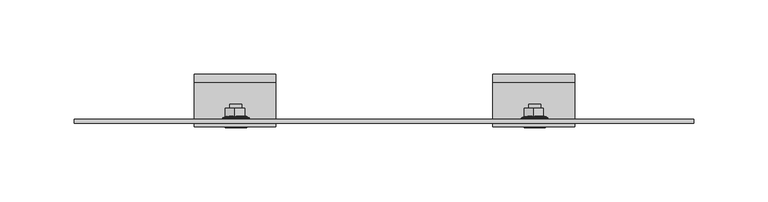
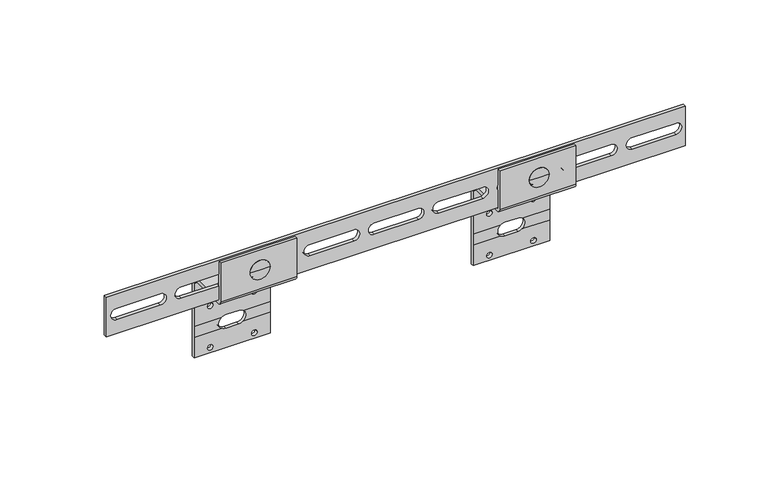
"""IFC4 building model written with IfcOpenShell, lengths in millimetres: proxy geometry, REHAU_RAUTITAN_Bracket D : REHAU_RAUTITAN_Bracket D."""

from ifc_helpers import new_model, si_unit, point, frame, frame_2d, origin, place, context, project, spatial, polyline, circle_curve, ellipse_curve, trimmed, segment, composite_curve, outline, extrude, source, transform, mapped, element, save
from ifc_brep_helpers import plane_surface, cylinder_surface, revolved_surface, advanced_brep


def mechanical_equipment_87cdfacb(model_context):
    return source(origin(), model_context, "Body", "SolidModel", [
        extrude(outline(polyline([(15.0, 209.0), (15.0, -209.0), (-15.0, -209.0), (-15.0, 209.0), (15.0, 209.0)]), holes=[composite_curve([segment(trimmed(circle_curve(frame_2d((0.0, -170.0)), 4.25), [point((4.25, -170.0))], [point((-4.25, -170.0))], True, "CARTESIAN"), True, "CONTINUOUS"), segment(polyline([(-4.25, -170.0), (-4.25, -201.5)]), True, "CONTINUOUS"), segment(trimmed(circle_curve(frame_2d((0.0, -201.5)), 4.25), [point((-4.25, -201.5))], [point((4.25, -201.5))], True, "CARTESIAN"), True, "CONTINUOUS"), segment(polyline([(4.25, -201.5), (4.25, -170.0)]), True, "CONTINUOUS")], self_intersect=False), composite_curve([segment(polyline([(-4.25, -128.0), (-4.25, -155.0)]), True, "CONTINUOUS"), segment(trimmed(circle_curve(frame_2d((0.0, -155.0)), 4.25), [point((-4.25, -155.0))], [point((4.25, -155.0))], True, "CARTESIAN"), True, "CONTINUOUS"), segment(polyline([(4.25, -155.0), (4.25, -128.0), (4.25, -123.5)]), True, "CONTINUOUS"), segment(trimmed(circle_curve(frame_2d((0.0, -123.5)), 4.25), [point((4.25, -123.5))], [point((-4.25, -123.5))], True, "CARTESIAN"), True, "CONTINUOUS"), segment(polyline([(-4.25, -123.5), (-4.25, -128.0)]), True, "CONTINUOUS")], self_intersect=False), composite_curve([segment(polyline([(-4.25, -77.0), (-4.25, -108.5)]), True, "CONTINUOUS"), segment(trimmed(circle_curve(frame_2d((0.0, -108.5)), 4.25), [point((-4.25, -108.5))], [point((4.25, -108.5))], True, "CARTESIAN"), True, "CONTINUOUS"), segment(polyline([(4.25, -108.5), (4.25, -77.0)]), True, "CONTINUOUS"), segment(trimmed(circle_curve(frame_2d((0.0, -77.0)), 4.25), [point((4.25, -77.0))], [point((1.4361407, -73.0))], True, "CARTESIAN"), True, "CONTINUOUS"), segment(trimmed(circle_curve(frame_2d((0.0, -77.0)), 4.25), [point((1.4361407, -73.0))], [point((-1.4361407, -73.0))], True, "CARTESIAN"), True, "CONTINUOUS"), segment(trimmed(circle_curve(frame_2d((0.0, -77.0)), 4.25), [point((-1.4361407, -73.0))], [point((-4.25, -77.0))], True, "CARTESIAN"), True, "CONTINUOUS")], self_intersect=False), composite_curve([segment(polyline([(-4.25, -30.5), (-4.25, -62.0)]), True, "CONTINUOUS"), segment(trimmed(circle_curve(frame_2d((0.0, -62.0)), 4.25), [point((-4.25, -62.0))], [point((4.25, -62.0))], True, "CARTESIAN"), True, "CONTINUOUS"), segment(polyline([(4.25, -62.0), (4.25, -30.5)]), True, "CONTINUOUS"), segment(trimmed(circle_curve(frame_2d((0.0, -30.5)), 4.25), [point((4.25, -30.5))], [point((-4.25, -30.5))], True, "CARTESIAN"), True, "CONTINUOUS")], self_intersect=False), composite_curve([segment(polyline([(-4.25, 16.0), (-4.25, -15.5)]), True, "CONTINUOUS"), segment(trimmed(circle_curve(frame_2d((0.0, -15.5)), 4.25), [point((-4.25, -15.5))], [point((4.25, -15.5))], True, "CARTESIAN"), True, "CONTINUOUS"), segment(polyline([(4.25, -15.5), (4.25, 16.0)]), True, "CONTINUOUS"), segment(trimmed(circle_curve(frame_2d((0.0, 16.0)), 4.25), [point((4.25, 16.0))], [point((-4.25, 16.0))], True, "CARTESIAN"), True, "CONTINUOUS")], self_intersect=False), composite_curve([segment(polyline([(-4.25, 62.5), (-4.25, 31.0)]), True, "CONTINUOUS"), segment(trimmed(circle_curve(frame_2d((0.0, 31.0)), 4.25), [point((-4.25, 31.0))], [point((4.25, 31.0))], True, "CARTESIAN"), True, "CONTINUOUS"), segment(polyline([(4.25, 31.0), (4.25, 62.5)]), True, "CONTINUOUS"), segment(trimmed(circle_curve(frame_2d((0.0, 62.5)), 4.25), [point((4.25, 62.5))], [point((-4.25, 62.5))], True, "CARTESIAN"), True, "CONTINUOUS")], self_intersect=False), composite_curve([segment(trimmed(circle_curve(frame_2d((0.0, 77.5)), 4.25), [point((-4.25, 77.5))], [point((-1.4361407, 73.5))], True, "CARTESIAN"), True, "CONTINUOUS"), segment(trimmed(circle_curve(frame_2d((0.0, 77.5)), 4.25), [point((-1.4361407, 73.5))], [point((1.4361407, 73.5))], True, "CARTESIAN"), True, "CONTINUOUS"), segment(trimmed(circle_curve(frame_2d((0.0, 77.5)), 4.25), [point((1.4361407, 73.5))], [point((4.25, 77.5))], True, "CARTESIAN"), True, "CONTINUOUS"), segment(polyline([(4.25, 77.5), (4.25, 109.0)]), True, "CONTINUOUS"), segment(trimmed(circle_curve(frame_2d((0.0, 109.0)), 4.25), [point((4.25, 109.0))], [point((-4.25, 109.0))], True, "CARTESIAN"), True, "CONTINUOUS"), segment(polyline([(-4.25, 109.0), (-4.25, 77.5)]), True, "CONTINUOUS")], self_intersect=False), composite_curve([segment(trimmed(circle_curve(frame_2d((0.0, 155.5)), 4.25), [point((4.25, 155.5))], [point((-4.25, 155.5))], True, "CARTESIAN"), True, "CONTINUOUS"), segment(polyline([(-4.25, 155.5), (-4.25, 128.5), (-4.25, 124.0)]), True, "CONTINUOUS"), segment(trimmed(circle_curve(frame_2d((0.0, 124.0)), 4.25), [point((-4.25, 124.0))], [point((4.25, 124.0))], True, "CARTESIAN"), True, "CONTINUOUS"), segment(polyline([(4.25, 124.0), (4.25, 128.5), (4.25, 155.5)]), True, "CONTINUOUS")], self_intersect=False), composite_curve([segment(polyline([(-4.25, 202.0), (-4.25, 170.5)]), True, "CONTINUOUS"), segment(trimmed(circle_curve(frame_2d((0.0, 170.5)), 4.25), [point((-4.25, 170.5))], [point((4.25, 170.5))], True, "CARTESIAN"), True, "CONTINUOUS"), segment(polyline([(4.25, 170.5), (4.25, 202.0)]), True, "CONTINUOUS"), segment(trimmed(circle_curve(frame_2d((0.0, 202.0)), 4.25), [point((4.25, 202.0))], [point((-4.25, 202.0))], True, "CARTESIAN"), True, "CONTINUOUS")], self_intersect=False)]), frame((0.0, -16.5, 0.0), z_axis=(0.0, 1.0, 0.0), x_axis=(0.0, 0.0, 1.0)), (0.0, 0.0, 1.0), 2.5),
        advanced_brep(
        [(128.5, -19.0, 14.5), (128.5, -19.0, -15.0), (128.5, -16.0, -18.0), (128.5, 11.0, -18.0), (128.5, 14.0, -21.0), (128.5, 14.0, -53.8585757), (128.5, 14.0, -62.1652337), (128.5, 14.0, -78.0), (128.5, 16.5, -78.0), (128.5, 16.5, -21.0), (128.5, 11.0, -15.5), (128.5, -16.0, -15.5), (128.5, -16.5, -15.0), (128.5, -16.5, 14.5), (73.5, -19.0, 14.5), (73.5, -16.5, 14.5), (73.5, -16.5, -15.0), (73.5, -16.0, -15.5), (73.5, 11.0, -15.5), (73.5, 16.5, -21.0), (73.5, 16.5, -78.0), (73.5, 14.0, -78.0), (73.5, 14.0, -62.1652337), (73.5, 14.0, -53.8585757), (73.5, 14.0, -21.0), (73.5, 11.0, -18.0), (73.5, -16.0, -18.0), (73.5, -19.0, -15.0), (93.0233756, 14.0, -53.8585757), (96.25, 14.0, -52.75), (105.75, 14.0, -52.75), (108.9766244, 14.0, -53.8585757), (87.0900974, 14.0, -42.0900974), (83.0900974, 14.0, -42.0900974), (118.9099026, 14.0, -42.0900974), (114.9099026, 14.0, -42.0900974), (108.9458298, 14.0, -62.1652337), (93.0541702, 14.0, -62.1652337), (105.75, 14.0, -63.25), (96.25, 14.0, -63.25), (87.0900974, 14.0, -73.9099026), (83.0900974, 14.0, -73.9099026), (118.9099026, 14.0, -73.9099026), (114.9099026, 14.0, -73.9099026), (83.0900974, 16.5, -42.0900974), (87.0900974, 16.5, -42.0900974), (114.9099026, 16.5, -42.0900974), (118.9099026, 16.5, -42.0900974), (83.0900974, 16.5, -73.9099026), (87.0900974, 16.5, -73.9099026), (114.9099026, 16.5, -73.9099026), (118.9099026, 16.5, -73.9099026), (105.75, 16.5, -63.25), (105.75, 16.5, -52.75), (96.25, 16.5, -52.75), (96.25, 16.5, -63.25)],
        [
            (0, 1),
            (1, 2, circle_curve(frame((128.5, -16.0, -15.0), z_axis=(1.0, 0.0, 0.0), x_axis=(0.0, 1.0, 0.0)), 3.0)),
            (2, 3),
            (3, 4, circle_curve(frame((128.5, 11.0, -21.0), z_axis=(-1.0, 0.0, 0.0), x_axis=(0.0, 1.0, 0.0)), 3.0)),
            (4, 5),
            (5, 6),
            (6, 7),
            (7, 8),
            (8, 9),
            (9, 10, circle_curve(frame((128.5, 11.0, -21.0), z_axis=(1.0, 0.0, 0.0), x_axis=(0.0, 1.0, 0.0)), 5.5)),
            (10, 11),
            (11, 12, circle_curve(frame((128.5, -16.0, -15.0), z_axis=(-1.0, 0.0, 0.0), x_axis=(0.0, 1.0, 0.0)), 0.5)),
            (12, 13),
            (13, 0),
            (14, 15),
            (15, 16),
            (16, 17, circle_curve(frame((73.5, -16.0, -15.0), z_axis=(1.0, 0.0, 0.0), x_axis=(0.0, 1.0, 0.0)), 0.5)),
            (17, 18),
            (18, 19, circle_curve(frame((73.5, 11.0, -21.0), z_axis=(-1.0, 0.0, 0.0), x_axis=(0.0, 1.0, 0.0)), 5.5)),
            (19, 20),
            (20, 21),
            (21, 22),
            (22, 23),
            (23, 24),
            (24, 25, circle_curve(frame((73.5, 11.0, -21.0), z_axis=(1.0, 0.0, 0.0), x_axis=(0.0, 1.0, 0.0)), 3.0)),
            (25, 26),
            (26, 27, circle_curve(frame((73.5, -16.0, -15.0), z_axis=(-1.0, 0.0, 0.0), x_axis=(0.0, 1.0, 0.0)), 3.0)),
            (27, 14),
            (0, 14),
            (27, 1),
            (26, 2),
            (25, 3),
            (24, 4),
            (23, 28),
            (28, 29, circle_curve(frame((96.25, 14.0, -58.0), z_axis=(0.0, 1.0, 0.0), x_axis=(1.0, 0.0, 0.0)), 5.25)),
            (29, 30),
            (30, 31, circle_curve(frame((105.75, 14.0, -58.0), z_axis=(0.0, 1.0, 0.0), x_axis=(1.0, 0.0, 0.0)), 5.25)),
            (31, 5),
            (32, 33, circle_curve(frame((85.0900974, 14.0, -42.0900974), z_axis=(0.0, 1.0, 0.0), x_axis=(1.0, 0.0, 0.0)), 2.0)),
            (33, 32, circle_curve(frame((85.0900974, 14.0, -42.0900974), z_axis=(0.0, 1.0, 0.0), x_axis=(1.0, 0.0, 0.0)), 2.0)),
            (34, 35, circle_curve(frame((116.9099026, 14.0, -42.0900974), z_axis=(0.0, 1.0, 0.0), x_axis=(1.0, 0.0, 0.0)), 2.0)),
            (35, 34, circle_curve(frame((116.9099026, 14.0, -42.0900974), z_axis=(0.0, 1.0, 0.0), x_axis=(1.0, 0.0, 0.0)), 2.0)),
            (31, 36, circle_curve(frame((105.75, 14.0, -58.0), z_axis=(0.0, 1.0, 0.0), x_axis=(1.0, 0.0, 0.0)), 5.25)),
            (36, 6),
            (22, 37),
            (37, 28, circle_curve(frame((96.25, 14.0, -58.0), z_axis=(0.0, 1.0, 0.0), x_axis=(1.0, 0.0, 0.0)), 5.25)),
            (36, 38, circle_curve(frame((105.75, 14.0, -58.0), z_axis=(0.0, 1.0, 0.0), x_axis=(1.0, 0.0, 0.0)), 5.25)),
            (38, 39),
            (39, 37, circle_curve(frame((96.25, 14.0, -58.0), z_axis=(0.0, 1.0, 0.0), x_axis=(1.0, 0.0, 0.0)), 5.25)),
            (21, 7),
            (40, 41, circle_curve(frame((85.0900974, 14.0, -73.9099026), z_axis=(0.0, 1.0, 0.0), x_axis=(1.0, 0.0, 0.0)), 2.0)),
            (41, 40, circle_curve(frame((85.0900974, 14.0, -73.9099026), z_axis=(0.0, 1.0, 0.0), x_axis=(1.0, 0.0, 0.0)), 2.0)),
            (42, 43, circle_curve(frame((116.9099026, 14.0, -73.9099026), z_axis=(0.0, 1.0, 0.0), x_axis=(1.0, 0.0, 0.0)), 2.0)),
            (43, 42, circle_curve(frame((116.9099026, 14.0, -73.9099026), z_axis=(0.0, 1.0, 0.0), x_axis=(1.0, 0.0, 0.0)), 2.0)),
            (20, 8),
            (19, 9),
            (44, 45, circle_curve(frame((85.0900974, 16.5, -42.0900974), z_axis=(0.0, -1.0, 0.0), x_axis=(1.0, 0.0, 0.0)), 2.0)),
            (45, 44, circle_curve(frame((85.0900974, 16.5, -42.0900974), z_axis=(0.0, -1.0, 0.0), x_axis=(1.0, 0.0, 0.0)), 2.0)),
            (46, 47, circle_curve(frame((116.9099026, 16.5, -42.0900974), z_axis=(0.0, -1.0, 0.0), x_axis=(1.0, 0.0, 0.0)), 2.0)),
            (47, 46, circle_curve(frame((116.9099026, 16.5, -42.0900974), z_axis=(0.0, -1.0, 0.0), x_axis=(1.0, 0.0, 0.0)), 2.0)),
            (48, 49, circle_curve(frame((85.0900974, 16.5, -73.9099026), z_axis=(0.0, -1.0, 0.0), x_axis=(1.0, 0.0, 0.0)), 2.0)),
            (49, 48, circle_curve(frame((85.0900974, 16.5, -73.9099026), z_axis=(0.0, -1.0, 0.0), x_axis=(1.0, 0.0, 0.0)), 2.0)),
            (50, 51, circle_curve(frame((116.9099026, 16.5, -73.9099026), z_axis=(0.0, -1.0, 0.0), x_axis=(1.0, 0.0, 0.0)), 2.0)),
            (51, 50, circle_curve(frame((116.9099026, 16.5, -73.9099026), z_axis=(0.0, -1.0, 0.0), x_axis=(1.0, 0.0, 0.0)), 2.0)),
            (52, 53, circle_curve(frame((105.75, 16.5, -58.0), z_axis=(0.0, -1.0, 0.0), x_axis=(1.0, 0.0, 0.0)), 5.25)),
            (53, 54),
            (54, 55, circle_curve(frame((96.25, 16.5, -58.0), z_axis=(0.0, -1.0, 0.0), x_axis=(1.0, 0.0, 0.0)), 5.25)),
            (55, 52),
            (18, 10),
            (17, 11),
            (16, 12),
            (15, 13),
            (44, 33),
            (32, 45),
            (46, 35),
            (34, 47),
            (48, 41),
            (40, 49),
            (50, 43),
            (42, 51),
            (52, 38),
            (30, 53),
            (29, 54),
            (39, 55),
        ],
        [
            plane_surface(frame((128.5, -19.0, 14.5), z_axis=(1.0, 0.0, 0.0), x_axis=(0.0, 0.0, -1.0))),
            plane_surface(frame((73.5, -19.0, 14.5), z_axis=(-1.0, 0.0, 0.0), x_axis=(0.0, 0.0, 1.0))),
            plane_surface(frame((128.5, -19.0, 14.5), z_axis=(0.0, -1.0, 0.0), x_axis=(-1.0, 0.0, 0.0))),
            cylinder_surface(frame((73.5, -16.0, -15.0), z_axis=(1.0, 0.0, 0.0), x_axis=(0.0, 1.0, 0.0)), 3.0),
            plane_surface(frame((128.5, -16.0, -18.0), z_axis=(0.0, 0.0, -1.0), x_axis=(-1.0, 0.0, 0.0))),
            revolved_surface(polyline([(73.5, 14.0, -21.0), (128.5, 14.0, -21.0)]), (73.5, 11.0, -21.0), (-1.0, 0.0, 0.0)),
            plane_surface(frame((128.5, 14.0, -21.0), z_axis=(0.0, -1.0, 0.0), x_axis=(-1.0, 0.0, 0.0))),
            plane_surface(frame((128.5, 14.0, -53.8585757), z_axis=(0.0, -1.0, 0.0), x_axis=(-1.0, 0.0, 0.0))),
            plane_surface(frame((128.5, 14.0, -62.1652337), z_axis=(0.0, -1.0, 0.0), x_axis=(-1.0, 0.0, 0.0))),
            plane_surface(frame((128.5, 14.0, -78.0), z_axis=(0.0, 0.0, -1.0), x_axis=(-1.0, 0.0, 0.0))),
            plane_surface(frame((128.5, 16.5, -78.0), z_axis=(0.0, 1.0, 0.0), x_axis=(-1.0, 0.0, 0.0))),
            cylinder_surface(frame((73.5, 11.0, -21.0), z_axis=(1.0, 0.0, 0.0), x_axis=(0.0, 1.0, 0.0)), 5.5),
            plane_surface(frame((128.5, 11.0, -15.5), z_axis=(0.0, 0.0, 1.0), x_axis=(-1.0, 0.0, 0.0))),
            revolved_surface(polyline([(73.5, -15.5, -15.0), (128.5, -15.5, -15.0)]), (73.5, -16.0, -15.0), (-1.0, 0.0, 0.0)),
            plane_surface(frame((128.5, -16.5, -15.0), z_axis=(0.0, 1.0, 0.0), x_axis=(-1.0, 0.0, 0.0))),
            plane_surface(frame((128.5, -16.5, 14.5), z_axis=(0.0, 0.0, 1.0), x_axis=(-1.0, 0.0, 0.0))),
            revolved_surface(polyline([(87.0900974, 14.0, -42.0900974), (87.0900974, 16.5, -42.0900974)]), (85.0900974, 0.0, -42.0900974), (0.0, -1.0, 0.0)),
            revolved_surface(polyline([(118.9099026, 14.0, -42.0900974), (118.9099026, 16.5, -42.0900974)]), (116.9099026, 0.0, -42.0900974), (0.0, -1.0, 0.0)),
            revolved_surface(polyline([(87.0900974, 14.0, -73.9099026), (87.0900974, 16.5, -73.9099026)]), (85.0900974, 0.0, -73.9099026), (0.0, -1.0, 0.0)),
            revolved_surface(polyline([(118.9099026, 14.0, -73.9099026), (118.9099026, 16.5, -73.9099026)]), (116.9099026, 0.0, -73.9099026), (0.0, -1.0, 0.0)),
            revolved_surface(polyline([(111.0, 14.0, -58.0), (111.0, 16.5, -58.0)]), (105.75, 0.0, -58.0), (0.0, -1.0, 0.0)),
            plane_surface(frame((105.75, -19.7, -52.75), z_axis=(0.0, 0.0, -1.0), x_axis=(0.0, 1.0, 0.0))),
            revolved_surface(polyline([(101.5, 14.0, -58.0), (101.5, 16.5, -58.0)]), (96.25, 0.0, -58.0), (0.0, -1.0, 0.0)),
            plane_surface(frame((96.25, -19.7, -63.25), z_axis=(0.0, 0.0, 1.0), x_axis=(0.0, 1.0, 0.0))),
        ],
        [
            (0, [[1, 2, 3, 4, 5, 6, 7, 8, 9, 10, 11, 12, 13, 14]]),
            (1, [[15, 16, 17, 18, 19, 20, 21, 22, 23, 24, 25, 26, 27, 28]]),
            (2, [[-1, 29, -28, 30]]),
            (3, [[-2, -30, -27, 31]]),
            (4, [[-3, -31, -26, 32]]),
            (5, [[-4, -32, -25, 33]]),
            (6, [[-5, -33, -24, 34, 35, 36, 37, 38], [39, 40], [41, 42]]),
            (7, [[-6, -38, 43, 44]]),
            (7, [[-23, 45, 46, -34]]),
            (8, [[-7, -44, 47, 48, 49, -45, -22, 50], [51, 52], [53, 54]]),
            (9, [[-8, -50, -21, 55]]),
            (10, [[-9, -55, -20, 56], [57, 58], [59, 60], [61, 62], [63, 64], [65, 66, 67, 68]]),
            (11, [[-10, -56, -19, 69]]),
            (12, [[-11, -69, -18, 70]]),
            (13, [[-12, -70, -17, 71]]),
            (14, [[-13, -71, -16, 72]]),
            (15, [[-14, -72, -15, -29]]),
            (16, [[73, -39, 74, -57]]),
            (16, [[-73, -58, -74, -40]]),
            (17, [[75, -41, 76, -59]]),
            (17, [[-75, -60, -76, -42]]),
            (18, [[77, -51, 78, -61]]),
            (18, [[-77, -62, -78, -52]]),
            (19, [[79, -53, 80, -63]]),
            (19, [[-79, -64, -80, -54]]),
            (20, [[81, -47, -43, -37, 82, -65]]),
            (21, [[-82, -36, 83, -66]]),
            (22, [[-83, -35, -46, -49, 84, -67]]),
            (23, [[-81, -68, -84, -48]]),
        ],
    ),
        advanced_brep(
        [(-73.0, -19.0, 14.5), (-73.0, -19.0, -15.0), (-73.0, -16.0, -18.0), (-73.0, 11.0, -18.0), (-73.0, 14.0, -21.0), (-73.0, 14.0, -53.8585757), (-73.0, 14.0, -62.1652337), (-73.0, 14.0, -78.0), (-73.0, 16.5, -78.0), (-73.0, 16.5, -21.0), (-73.0, 11.0, -15.5), (-73.0, -16.0, -15.5), (-73.0, -16.5, -15.0), (-73.0, -16.5, 14.5), (-128.0, -19.0, 14.5), (-128.0, -16.5, 14.5), (-128.0, -16.5, -15.0), (-128.0, -16.0, -15.5), (-128.0, 11.0, -15.5), (-128.0, 16.5, -21.0), (-128.0, 16.5, -78.0), (-128.0, 14.0, -78.0), (-128.0, 14.0, -62.1652337), (-128.0, 14.0, -53.8585757), (-128.0, 14.0, -21.0), (-128.0, 11.0, -18.0), (-128.0, -16.0, -18.0), (-128.0, -19.0, -15.0), (-108.4766244, 14.0, -53.8585757), (-105.25, 14.0, -52.75), (-95.75, 14.0, -52.75), (-92.5233756, 14.0, -53.8585757), (-82.5900974, 14.0, -42.0900974), (-86.5900974, 14.0, -42.0900974), (-114.4099026, 14.0, -42.0900974), (-118.4099026, 14.0, -42.0900974), (-92.5541702, 14.0, -62.1652337), (-108.4458298, 14.0, -62.1652337), (-95.75, 14.0, -63.25), (-105.25, 14.0, -63.25), (-114.4099026, 14.0, -73.9099026), (-118.4099026, 14.0, -73.9099026), (-82.5900974, 14.0, -73.9099026), (-86.5900974, 14.0, -73.9099026), (-86.5900974, 16.5, -42.0900974), (-82.5900974, 16.5, -42.0900974), (-118.4099026, 16.5, -42.0900974), (-114.4099026, 16.5, -42.0900974), (-118.4099026, 16.5, -73.9099026), (-114.4099026, 16.5, -73.9099026), (-86.5900974, 16.5, -73.9099026), (-82.5900974, 16.5, -73.9099026), (-95.75, 16.5, -63.25), (-95.75, 16.5, -52.75), (-105.25, 16.5, -52.75), (-105.25, 16.5, -63.25)],
        [
            (0, 1),
            (1, 2, circle_curve(frame((-73.0, -16.0, -15.0), z_axis=(1.0, 0.0, 0.0), x_axis=(0.0, 1.0, 0.0)), 3.0)),
            (2, 3),
            (3, 4, circle_curve(frame((-73.0, 11.0, -21.0), z_axis=(-1.0, 0.0, 0.0), x_axis=(0.0, 1.0, 0.0)), 3.0)),
            (4, 5),
            (5, 6),
            (6, 7),
            (7, 8),
            (8, 9),
            (9, 10, circle_curve(frame((-73.0, 11.0, -21.0), z_axis=(1.0, 0.0, 0.0), x_axis=(0.0, 1.0, 0.0)), 5.5)),
            (10, 11),
            (11, 12, circle_curve(frame((-73.0, -16.0, -15.0), z_axis=(-1.0, 0.0, 0.0), x_axis=(0.0, 1.0, 0.0)), 0.5)),
            (12, 13),
            (13, 0),
            (14, 15),
            (15, 16),
            (16, 17, circle_curve(frame((-128.0, -16.0, -15.0), z_axis=(1.0, 0.0, 0.0), x_axis=(0.0, 1.0, 0.0)), 0.5)),
            (17, 18),
            (18, 19, circle_curve(frame((-128.0, 11.0, -21.0), z_axis=(-1.0, 0.0, 0.0), x_axis=(0.0, 1.0, 0.0)), 5.5)),
            (19, 20),
            (20, 21),
            (21, 22),
            (22, 23),
            (23, 24),
            (24, 25, circle_curve(frame((-128.0, 11.0, -21.0), z_axis=(1.0, 0.0, 0.0), x_axis=(0.0, 1.0, 0.0)), 3.0)),
            (25, 26),
            (26, 27, circle_curve(frame((-128.0, -16.0, -15.0), z_axis=(-1.0, 0.0, 0.0), x_axis=(0.0, 1.0, 0.0)), 3.0)),
            (27, 14),
            (0, 14),
            (27, 1),
            (26, 2),
            (25, 3),
            (24, 4),
            (23, 28),
            (28, 29, circle_curve(frame((-105.25, 14.0, -58.0), z_axis=(0.0, 1.0, 0.0), x_axis=(1.0, 0.0, 0.0)), 5.25)),
            (29, 30),
            (30, 31, circle_curve(frame((-95.75, 14.0, -58.0), z_axis=(0.0, 1.0, 0.0), x_axis=(1.0, 0.0, 0.0)), 5.25)),
            (31, 5),
            (32, 33, circle_curve(frame((-84.5900974, 14.0, -42.0900974), z_axis=(0.0, 1.0, 0.0), x_axis=(1.0, 0.0, 0.0)), 2.0)),
            (33, 32, circle_curve(frame((-84.5900974, 14.0, -42.0900974), z_axis=(0.0, 1.0, 0.0), x_axis=(1.0, 0.0, 0.0)), 2.0)),
            (34, 35, circle_curve(frame((-116.4099026, 14.0, -42.0900974), z_axis=(0.0, 1.0, 0.0), x_axis=(1.0, 0.0, 0.0)), 2.0)),
            (35, 34, circle_curve(frame((-116.4099026, 14.0, -42.0900974), z_axis=(0.0, 1.0, 0.0), x_axis=(1.0, 0.0, 0.0)), 2.0)),
            (31, 36, circle_curve(frame((-95.75, 14.0, -58.0), z_axis=(0.0, 1.0, 0.0), x_axis=(1.0, 0.0, 0.0)), 5.25)),
            (36, 6),
            (22, 37),
            (37, 28, circle_curve(frame((-105.25, 14.0, -58.0), z_axis=(0.0, 1.0, 0.0), x_axis=(1.0, 0.0, 0.0)), 5.25)),
            (36, 38, circle_curve(frame((-95.75, 14.0, -58.0), z_axis=(0.0, 1.0, 0.0), x_axis=(1.0, 0.0, 0.0)), 5.25)),
            (38, 39),
            (39, 37, circle_curve(frame((-105.25, 14.0, -58.0), z_axis=(0.0, 1.0, 0.0), x_axis=(1.0, 0.0, 0.0)), 5.25)),
            (21, 7),
            (40, 41, circle_curve(frame((-116.4099026, 14.0, -73.9099026), z_axis=(0.0, 1.0, 0.0), x_axis=(1.0, 0.0, 0.0)), 2.0)),
            (41, 40, circle_curve(frame((-116.4099026, 14.0, -73.9099026), z_axis=(0.0, 1.0, 0.0), x_axis=(1.0, 0.0, 0.0)), 2.0)),
            (42, 43, circle_curve(frame((-84.5900974, 14.0, -73.9099026), z_axis=(0.0, 1.0, 0.0), x_axis=(1.0, 0.0, 0.0)), 2.0)),
            (43, 42, circle_curve(frame((-84.5900974, 14.0, -73.9099026), z_axis=(0.0, 1.0, 0.0), x_axis=(1.0, 0.0, 0.0)), 2.0)),
            (20, 8),
            (19, 9),
            (44, 45, circle_curve(frame((-84.5900974, 16.5, -42.0900974), z_axis=(0.0, -1.0, 0.0), x_axis=(1.0, 0.0, 0.0)), 2.0)),
            (45, 44, circle_curve(frame((-84.5900974, 16.5, -42.0900974), z_axis=(0.0, -1.0, 0.0), x_axis=(1.0, 0.0, 0.0)), 2.0)),
            (46, 47, circle_curve(frame((-116.4099026, 16.5, -42.0900974), z_axis=(0.0, -1.0, 0.0), x_axis=(1.0, 0.0, 0.0)), 2.0)),
            (47, 46, circle_curve(frame((-116.4099026, 16.5, -42.0900974), z_axis=(0.0, -1.0, 0.0), x_axis=(1.0, 0.0, 0.0)), 2.0)),
            (48, 49, circle_curve(frame((-116.4099026, 16.5, -73.9099026), z_axis=(0.0, -1.0, 0.0), x_axis=(1.0, 0.0, 0.0)), 2.0)),
            (49, 48, circle_curve(frame((-116.4099026, 16.5, -73.9099026), z_axis=(0.0, -1.0, 0.0), x_axis=(1.0, 0.0, 0.0)), 2.0)),
            (50, 51, circle_curve(frame((-84.5900974, 16.5, -73.9099026), z_axis=(0.0, -1.0, 0.0), x_axis=(1.0, 0.0, 0.0)), 2.0)),
            (51, 50, circle_curve(frame((-84.5900974, 16.5, -73.9099026), z_axis=(0.0, -1.0, 0.0), x_axis=(1.0, 0.0, 0.0)), 2.0)),
            (52, 53, circle_curve(frame((-95.75, 16.5, -58.0), z_axis=(0.0, -1.0, 0.0), x_axis=(1.0, 0.0, 0.0)), 5.25)),
            (53, 54),
            (54, 55, circle_curve(frame((-105.25, 16.5, -58.0), z_axis=(0.0, -1.0, 0.0), x_axis=(1.0, 0.0, 0.0)), 5.25)),
            (55, 52),
            (18, 10),
            (17, 11),
            (16, 12),
            (15, 13),
            (44, 33),
            (32, 45),
            (46, 35),
            (34, 47),
            (48, 41),
            (40, 49),
            (50, 43),
            (42, 51),
            (52, 38),
            (30, 53),
            (29, 54),
            (39, 55),
        ],
        [
            plane_surface(frame((-73.0, -19.0, 14.5), z_axis=(1.0, 0.0, 0.0), x_axis=(0.0, 0.0, -1.0))),
            plane_surface(frame((-128.0, -19.0, 14.5), z_axis=(-1.0, 0.0, 0.0), x_axis=(0.0, 0.0, 1.0))),
            plane_surface(frame((-73.0, -19.0, 14.5), z_axis=(0.0, -1.0, 0.0), x_axis=(-1.0, 0.0, 0.0))),
            cylinder_surface(frame((-128.0, -16.0, -15.0), z_axis=(1.0, 0.0, 0.0), x_axis=(0.0, 1.0, 0.0)), 3.0),
            plane_surface(frame((-73.0, -16.0, -18.0), z_axis=(0.0, 0.0, -1.0), x_axis=(-1.0, 0.0, 0.0))),
            revolved_surface(polyline([(-128.0, 14.0, -21.0), (-73.0, 14.0, -21.0)]), (-128.0, 11.0, -21.0), (-1.0, 0.0, 0.0)),
            plane_surface(frame((-73.0, 14.0, -21.0), z_axis=(0.0, -1.0, 0.0), x_axis=(-1.0, 0.0, 0.0))),
            plane_surface(frame((-73.0, 14.0, -53.8585757), z_axis=(0.0, -1.0, 0.0), x_axis=(-1.0, 0.0, 0.0))),
            plane_surface(frame((-73.0, 14.0, -62.1652337), z_axis=(0.0, -1.0, 0.0), x_axis=(-1.0, 0.0, 0.0))),
            plane_surface(frame((-73.0, 14.0, -78.0), z_axis=(0.0, 0.0, -1.0), x_axis=(-1.0, 0.0, 0.0))),
            plane_surface(frame((-73.0, 16.5, -78.0), z_axis=(0.0, 1.0, 0.0), x_axis=(-1.0, 0.0, 0.0))),
            cylinder_surface(frame((-128.0, 11.0, -21.0), z_axis=(1.0, 0.0, 0.0), x_axis=(0.0, 1.0, 0.0)), 5.5),
            plane_surface(frame((-73.0, 11.0, -15.5), z_axis=(0.0, 0.0, 1.0), x_axis=(-1.0, 0.0, 0.0))),
            revolved_surface(polyline([(-128.0, -15.5, -15.0), (-73.0, -15.5, -15.0)]), (-128.0, -16.0, -15.0), (-1.0, 0.0, 0.0)),
            plane_surface(frame((-73.0, -16.5, -15.0), z_axis=(0.0, 1.0, 0.0), x_axis=(-1.0, 0.0, 0.0))),
            plane_surface(frame((-73.0, -16.5, 14.5), z_axis=(0.0, 0.0, 1.0), x_axis=(-1.0, 0.0, 0.0))),
            revolved_surface(polyline([(-82.5900974, 14.0, -42.0900974), (-82.5900974, 16.5, -42.0900974)]), (-84.5900974, 21.7770343, -42.0900974), (0.0, -1.0, 0.0)),
            revolved_surface(polyline([(-114.4099026, 14.0, -42.0900974), (-114.4099026, 16.5, -42.0900974)]), (-116.4099026, 0.0, -42.0900974), (0.0, -1.0, 0.0)),
            revolved_surface(polyline([(-114.4099026, 14.0, -73.9099026), (-114.4099026, 16.5, -73.9099026)]), (-116.4099026, 0.0, -73.9099026), (0.0, -1.0, 0.0)),
            revolved_surface(polyline([(-82.5900974, 14.0, -73.9099026), (-82.5900974, 16.5, -73.9099026)]), (-84.5900974, 0.0, -73.9099026), (0.0, -1.0, 0.0)),
            revolved_surface(polyline([(-90.5, 14.0, -58.0), (-90.5, 16.5, -58.0)]), (-95.75, 0.0, -58.0), (0.0, -1.0, 0.0)),
            plane_surface(frame((-95.75, -19.7, -52.75), z_axis=(0.0, 0.0, -1.0), x_axis=(0.0, 1.0, 0.0))),
            revolved_surface(polyline([(-100.0, 14.0, -58.0), (-100.0, 16.5, -58.0)]), (-105.25, 0.0, -58.0), (0.0, -1.0, 0.0)),
            plane_surface(frame((-105.25, -19.7, -63.25), z_axis=(0.0, 0.0, 1.0), x_axis=(0.0, 1.0, 0.0))),
        ],
        [
            (0, [[1, 2, 3, 4, 5, 6, 7, 8, 9, 10, 11, 12, 13, 14]]),
            (1, [[15, 16, 17, 18, 19, 20, 21, 22, 23, 24, 25, 26, 27, 28]]),
            (2, [[-1, 29, -28, 30]]),
            (3, [[-2, -30, -27, 31]]),
            (4, [[-3, -31, -26, 32]]),
            (5, [[-4, -32, -25, 33]]),
            (6, [[-5, -33, -24, 34, 35, 36, 37, 38], [39, 40], [41, 42]]),
            (7, [[-6, -38, 43, 44]]),
            (7, [[-23, 45, 46, -34]]),
            (8, [[-7, -44, 47, 48, 49, -45, -22, 50], [51, 52], [53, 54]]),
            (9, [[-8, -50, -21, 55]]),
            (10, [[-9, -55, -20, 56], [57, 58], [59, 60], [61, 62], [63, 64], [65, 66, 67, 68]]),
            (11, [[-10, -56, -19, 69]]),
            (12, [[-11, -69, -18, 70]]),
            (13, [[-12, -70, -17, 71]]),
            (14, [[-13, -71, -16, 72]]),
            (15, [[-14, -72, -15, -29]]),
            (16, [[73, -39, 74, -57]]),
            (16, [[-73, -58, -74, -40]]),
            (17, [[75, -41, 76, -59]]),
            (17, [[-75, -60, -76, -42]]),
            (18, [[77, -51, 78, -61]]),
            (18, [[-77, -62, -78, -52]]),
            (19, [[79, -53, 80, -63]]),
            (19, [[-79, -64, -80, -54]]),
            (20, [[81, -47, -43, -37, 82, -65]]),
            (21, [[-82, -36, 83, -66]]),
            (22, [[-83, -35, -46, -49, 84, -67]]),
            (23, [[-81, -68, -84, -48]]),
        ],
    ),
        advanced_brep(
        [(-95.8797828, -3.7, 0.0), (-103.8797828, -3.7, 0.0), (-99.8797828, -3.7, 0.0), (-95.8797828, -15.7, 0.0), (-103.8797828, -15.7, 0.0), (-92.7375489, -18.8422339, 0.0), (-107.0220167, -18.8422339, 0.0), (-99.8797828, -19.7, 0.0), (-107.0220167, -19.7, 0.0), (-92.7375489, -19.7, 0.0)],
        [
            (0, 1, circle_curve(frame((-99.8797828, -3.7, 0.0), z_axis=(0.0, 1.0, 0.0), x_axis=(-1.0, 0.0, 0.0)), 4.0)),
            (1, 2),
            (2, 0),
            (1, 0, circle_curve(frame((-99.8797828, -3.7, 0.0), z_axis=(0.0, 1.0, 0.0), x_axis=(-1.0, 0.0, 0.0)), 4.0)),
            (3, 4, circle_curve(frame((-99.8797828, -15.7, 0.0), z_axis=(0.0, 1.0, 0.0), x_axis=(-1.0, 0.0, 0.0)), 4.0)),
            (4, 1),
            (0, 3),
            (4, 3, circle_curve(frame((-99.8797828, -15.7, 0.0), z_axis=(0.0, 1.0, 0.0), x_axis=(-1.0, 0.0, 0.0)), 4.0)),
            (5, 6, circle_curve(frame((-99.8797828, -18.8422339, 0.0), z_axis=(0.0, 1.0, 0.0), x_axis=(-1.0, 0.0, 0.0)), 7.1422339)),
            (6, 4),
            (3, 5),
            (6, 5, circle_curve(frame((-99.8797828, -18.8422339, 0.0), z_axis=(0.0, 1.0, 0.0), x_axis=(-1.0, 0.0, 0.0)), 7.1422339)),
            (7, 8),
            (8, 9, circle_curve(frame((-99.8797828, -19.7, 0.0), z_axis=(0.0, -1.0, 0.0), x_axis=(-1.0, 0.0, 0.0)), 7.1422339)),
            (9, 7),
            (9, 8, circle_curve(frame((-99.8797828, -19.7, 0.0), z_axis=(0.0, -1.0, 0.0), x_axis=(-1.0, 0.0, 0.0)), 7.1422339)),
            (8, 6),
            (5, 9),
        ],
        [
            plane_surface(frame((-99.8797828, -3.7, 0.0), z_axis=(0.0, 1.0, 0.0), x_axis=(-1.0, 0.0, 0.0))),
            cylinder_surface(frame((-99.8797828, -3.7, 0.0), z_axis=(0.0, -1.0, 0.0), x_axis=(-1.0, 0.0, 0.0)), 4.0),
            revolved_surface(polyline([(-103.8797828, -15.7, 0.0), (-107.0220167, -18.8422339, 0.0)]), (-99.8797828, -3.7, 0.0), (0.0, -1.0, 0.0)),
            plane_surface(frame((-99.8797828, -19.7, 0.0), z_axis=(0.0, -1.0, 0.0), x_axis=(-1.0, 0.0, 0.0))),
            cylinder_surface(frame((-99.8797828, -3.7, 0.0), z_axis=(0.0, -1.0, 0.0), x_axis=(-1.0, 0.0, 0.0)), 7.1422339),
        ],
        [
            (0, [[1, 2, 3]]),
            (0, [[4, -3, -2]]),
            (1, [[5, 6, -1, 7]]),
            (1, [[8, -7, -4, -6]]),
            (2, [[9, 10, -5, 11]]),
            (2, [[12, -11, -8, -10]]),
            (3, [[13, 14, 15]]),
            (3, [[-15, 16, -13]]),
            (4, [[-14, 17, -9, 18]]),
            (4, [[-16, -18, -12, -17]]),
        ],
    ),
        extrude(outline(polyline([(-4.7527767, -107.0), (-8.5055535, -100.5), (-4.7527767, -94.0), (2.7527767, -94.0), (6.5055535, -100.5), (2.7527767, -107.0), (-4.7527767, -107.0)])), frame((0.0, -11.7823426, 0.0), z_axis=(0.0, 1.0, 0.0), x_axis=(0.0, 0.0, 1.0)), (0.0, 0.0, 1.0), 5.1615719),
        advanced_brep(
        [(-99.8797828, -14.0, 0.0), (-108.5, -14.0, 0.0), (-91.2595656, -14.0, 0.0), (-93.477223, -11.7823426, 0.0), (-106.2823426, -11.7823426, 0.0), (-99.8797828, -11.7823426, 0.0), (-92.3573215, -12.2959256, 0.0), (-107.4022441, -12.2959256, 0.0), (-91.2595656, -12.8159513, 0.0), (-108.5, -12.8159513, 0.0)],
        [
            (0, 1),
            (1, 2, circle_curve(frame((-99.8797828, -14.0, 0.0), z_axis=(0.0, -1.0, 0.0), x_axis=(-1.0, 0.0, 0.0)), 8.6202172)),
            (2, 0),
            (2, 1, circle_curve(frame((-99.8797828, -14.0, 0.0), z_axis=(0.0, -1.0, 0.0), x_axis=(-1.0, 0.0, 0.0)), 8.6202172)),
            (3, 4, circle_curve(frame((-99.8797828, -11.7823426, 0.0), z_axis=(0.0, 1.0, 0.0), x_axis=(-1.0, 0.0, 0.0)), 6.4025598)),
            (4, 5),
            (5, 3),
            (4, 3, circle_curve(frame((-99.8797828, -11.7823426, 0.0), z_axis=(0.0, 1.0, 0.0), x_axis=(-1.0, 0.0, 0.0)), 6.4025598)),
            (6, 7, circle_curve(frame((-99.8797828, -12.2959256, 0.0), z_axis=(0.0, 1.0, 0.0), x_axis=(-1.0, 0.0, 0.0)), 7.5224613)),
            (7, 4),
            (3, 6),
            (7, 6, circle_curve(frame((-99.8797828, -12.2959256, 0.0), z_axis=(0.0, 1.0, 0.0), x_axis=(-1.0, 0.0, 0.0)), 7.5224613)),
            (8, 9, circle_curve(frame((-99.8797828, -12.8159513, 0.0), z_axis=(0.0, 1.0, 0.0), x_axis=(-1.0, 0.0, 0.0)), 8.6202172)),
            (9, 7),
            (6, 8),
            (9, 8, circle_curve(frame((-99.8797828, -12.8159513, 0.0), z_axis=(0.0, 1.0, 0.0), x_axis=(-1.0, 0.0, 0.0)), 8.6202172)),
            (1, 9, circle_curve(frame((-108.219548, -13.4079757, 0.0), z_axis=(0.0, 0.0, -1.0), x_axis=(1.0, 0.0, 0.0)), 0.6550925)),
            (8, 2, circle_curve(frame((-91.5400176, -13.4079757, 0.0), z_axis=(0.0, 0.0, -1.0), x_axis=(-1.0, 0.0, 0.0)), 0.6550925)),
        ],
        [
            plane_surface(frame((-99.8797828, -14.0, 0.0), z_axis=(0.0, -1.0, 0.0), x_axis=(-1.0, 0.0, 0.0))),
            plane_surface(frame((-99.8797828, -11.7823426, 0.0), z_axis=(0.0, 1.0, 0.0), x_axis=(-1.0, 0.0, 0.0))),
            revolved_surface(polyline([(-106.2823426, -11.7823426, 0.0), (-107.4022441, -12.2959256, 0.0)]), (-99.8797828, -6.0, 0.0), (0.0, -1.0, 0.0)),
            revolved_surface(polyline([(-107.4022441, -12.2959256, 0.0), (-108.5, -12.8159513, 0.0)]), (-99.8797828, -6.0, 0.0), (0.0, -1.0, 0.0)),
            revolved_surface(trimmed(ellipse_curve(frame((-108.219548, -13.4079757, 0.0), z_axis=(0.0, 0.0, 1.0), x_axis=(1.0, 0.0, 0.0)), 0.6550925, 0.6550925), [point((-108.5, -12.8159513, 0.0))], [point((-108.5, -14.0, 0.0))], True, "CARTESIAN"), (-99.8797828, -6.0, 0.0), (0.0, -1.0, 0.0)),
        ],
        [
            (0, [[1, 2, 3]]),
            (0, [[-3, 4, -1]]),
            (1, [[5, 6, 7]]),
            (1, [[8, -7, -6]]),
            (2, [[9, 10, -5, 11]]),
            (2, [[12, -11, -8, -10]]),
            (3, [[13, 14, -9, 15]]),
            (3, [[16, -15, -12, -14]]),
            (4, [[-2, 17, -13, 18]]),
            (4, [[-4, -18, -16, -17]]),
        ],
    ),
        extrude(outline(polyline([(-4.7527767, 94.5), (-8.5055535, 101.0), (-4.7527767, 107.5), (2.7527767, 107.5), (6.5055535, 101.0), (2.7527767, 94.5), (-4.7527767, 94.5)])), frame((0.0, -11.7823426, 0.0), z_axis=(0.0, 1.0, 0.0), x_axis=(0.0, 0.0, 1.0)), (0.0, 0.0, 1.0), 5.1615719),
        advanced_brep(
        [(101.6202172, -14.0, 0.0), (93.0, -14.0, 0.0), (110.2404344, -14.0, 0.0), (108.022777, -11.7823426, 0.0), (95.2176574, -11.7823426, 0.0), (101.6202172, -11.7823426, 0.0), (109.1426785, -12.2959256, 0.0), (94.0977559, -12.2959256, 0.0), (110.2404344, -12.8159513, 0.0), (93.0, -12.8159513, 0.0)],
        [
            (0, 1),
            (1, 2, circle_curve(frame((101.6202172, -14.0, 0.0), z_axis=(0.0, -1.0, 0.0), x_axis=(-1.0, 0.0, 0.0)), 8.6202172)),
            (2, 0),
            (2, 1, circle_curve(frame((101.6202172, -14.0, 0.0), z_axis=(0.0, -1.0, 0.0), x_axis=(-1.0, 0.0, 0.0)), 8.6202172)),
            (3, 4, circle_curve(frame((101.6202172, -11.7823426, 0.0), z_axis=(0.0, 1.0, 0.0), x_axis=(-1.0, 0.0, 0.0)), 6.4025598)),
            (4, 5),
            (5, 3),
            (4, 3, circle_curve(frame((101.6202172, -11.7823426, 0.0), z_axis=(0.0, 1.0, 0.0), x_axis=(-1.0, 0.0, 0.0)), 6.4025598)),
            (6, 7, circle_curve(frame((101.6202172, -12.2959256, 0.0), z_axis=(0.0, 1.0, 0.0), x_axis=(-1.0, 0.0, 0.0)), 7.5224613)),
            (7, 4),
            (3, 6),
            (7, 6, circle_curve(frame((101.6202172, -12.2959256, 0.0), z_axis=(0.0, 1.0, 0.0), x_axis=(-1.0, 0.0, 0.0)), 7.5224613)),
            (8, 9, circle_curve(frame((101.6202172, -12.8159513, 0.0), z_axis=(0.0, 1.0, 0.0), x_axis=(-1.0, 0.0, 0.0)), 8.6202172)),
            (9, 7),
            (6, 8),
            (9, 8, circle_curve(frame((101.6202172, -12.8159513, 0.0), z_axis=(0.0, 1.0, 0.0), x_axis=(-1.0, 0.0, 0.0)), 8.6202172)),
            (1, 9, circle_curve(frame((93.280452, -13.4079757, 0.0), z_axis=(0.0, 0.0, -1.0), x_axis=(1.0, 0.0, 0.0)), 0.6550925)),
            (8, 2, circle_curve(frame((109.9599824, -13.4079757, 0.0), z_axis=(0.0, 0.0, -1.0), x_axis=(-1.0, 0.0, 0.0)), 0.6550925)),
        ],
        [
            plane_surface(frame((101.6202172, -14.0, 0.0), z_axis=(0.0, -1.0, 0.0), x_axis=(-1.0, 0.0, 0.0))),
            plane_surface(frame((101.6202172, -11.7823426, 0.0), z_axis=(0.0, 1.0, 0.0), x_axis=(-1.0, 0.0, 0.0))),
            revolved_surface(polyline([(95.2176574, -11.7823426, 0.0), (94.0977559, -12.2959256, 0.0)]), (101.6202172, -6.0, 0.0), (0.0, -1.0, 0.0)),
            revolved_surface(polyline([(94.0977559, -12.2959256, 0.0), (93.0, -12.8159513, 0.0)]), (101.6202172, -6.0, 0.0), (0.0, -1.0, 0.0)),
            revolved_surface(trimmed(ellipse_curve(frame((93.280452, -13.4079757, 0.0), z_axis=(0.0, 0.0, 1.0), x_axis=(1.0, 0.0, 0.0)), 0.6550925, 0.6550925), [point((93.0, -12.8159513, 0.0))], [point((93.0, -14.0, 0.0))], True, "CARTESIAN"), (101.6202172, -6.0, 0.0), (0.0, -1.0, 0.0)),
        ],
        [
            (0, [[1, 2, 3]]),
            (0, [[-3, 4, -1]]),
            (1, [[5, 6, 7]]),
            (1, [[8, -7, -6]]),
            (2, [[9, 10, -5, 11]]),
            (2, [[12, -11, -8, -10]]),
            (3, [[13, 14, -9, 15]]),
            (3, [[16, -15, -12, -14]]),
            (4, [[-2, 17, -13, 18]]),
            (4, [[-4, -18, -16, -17]]),
        ],
    ),
        advanced_brep(
        [(105.6202172, -3.7, 0.0), (97.6202172, -3.7, 0.0), (101.6202172, -3.7, 0.0), (105.6202172, -15.7, 0.0), (97.6202172, -15.7, 0.0), (108.7624511, -18.8422339, 0.0), (94.4779833, -18.8422339, 0.0), (101.6202172, -19.7, 0.0), (94.4779833, -19.7, 0.0), (108.7624511, -19.7, 0.0)],
        [
            (0, 1, circle_curve(frame((101.6202172, -3.7, 0.0), z_axis=(0.0, 1.0, 0.0), x_axis=(-1.0, 0.0, 0.0)), 4.0)),
            (1, 2),
            (2, 0),
            (1, 0, circle_curve(frame((101.6202172, -3.7, 0.0), z_axis=(0.0, 1.0, 0.0), x_axis=(-1.0, 0.0, 0.0)), 4.0)),
            (3, 4, circle_curve(frame((101.6202172, -15.7, 0.0), z_axis=(0.0, 1.0, 0.0), x_axis=(-1.0, 0.0, 0.0)), 4.0)),
            (4, 1),
            (0, 3),
            (4, 3, circle_curve(frame((101.6202172, -15.7, 0.0), z_axis=(0.0, 1.0, 0.0), x_axis=(-1.0, 0.0, 0.0)), 4.0)),
            (5, 6, circle_curve(frame((101.6202172, -18.8422339, 0.0), z_axis=(0.0, 1.0, 0.0), x_axis=(-1.0, 0.0, 0.0)), 7.1422339)),
            (6, 4),
            (3, 5),
            (6, 5, circle_curve(frame((101.6202172, -18.8422339, 0.0), z_axis=(0.0, 1.0, 0.0), x_axis=(-1.0, 0.0, 0.0)), 7.1422339)),
            (7, 8),
            (8, 9, circle_curve(frame((101.6202172, -19.7, 0.0), z_axis=(0.0, -1.0, 0.0), x_axis=(-1.0, 0.0, 0.0)), 7.1422339)),
            (9, 7),
            (9, 8, circle_curve(frame((101.6202172, -19.7, 0.0), z_axis=(0.0, -1.0, 0.0), x_axis=(-1.0, 0.0, 0.0)), 7.1422339)),
            (8, 6),
            (5, 9),
        ],
        [
            plane_surface(frame((101.6202172, -3.7, 0.0), z_axis=(0.0, 1.0, 0.0), x_axis=(-1.0, 0.0, 0.0))),
            cylinder_surface(frame((101.6202172, -3.7, 0.0), z_axis=(0.0, -1.0, 0.0), x_axis=(-1.0, 0.0, 0.0)), 4.0),
            revolved_surface(polyline([(97.6202172, -15.7, 0.0), (94.4779833, -18.8422339, 0.0)]), (101.6202172, -3.7, 0.0), (0.0, -1.0, 0.0)),
            plane_surface(frame((101.6202172, -19.7, 0.0), z_axis=(0.0, -1.0, 0.0), x_axis=(-1.0, 0.0, 0.0))),
            cylinder_surface(frame((101.6202172, -3.7, 0.0), z_axis=(0.0, -1.0, 0.0), x_axis=(-1.0, 0.0, 0.0)), 7.1422339),
        ],
        [
            (0, [[1, 2, 3]]),
            (0, [[4, -3, -2]]),
            (1, [[5, 6, -1, 7]]),
            (1, [[8, -7, -4, -6]]),
            (2, [[9, 10, -5, 11]]),
            (2, [[12, -11, -8, -10]]),
            (3, [[13, 14, 15]]),
            (3, [[-15, 16, -13]]),
            (4, [[-14, 17, -9, 18]]),
            (4, [[-16, -18, -12, -17]]),
        ],
    ),
    ])


if __name__ == "__main__":
    model = new_model("IFC4")
    model_context = context("Model", 3, world=origin())
    ifc_project = project(units=[si_unit("LENGTHUNIT", "METRE", prefix="MILLI")], contexts=[model_context])
    site = spatial("IfcSite", under=ifc_project)
    building = spatial("IfcBuilding", under=site)
    placement = place(None, origin())
    mechanical_equipment_shape = mechanical_equipment_87cdfacb(model_context)
    element("IfcBuildingElementProxy", 1, Name="REHAU_RAUTITAN_Bracket D : REHAU_RAUTITAN_Bracket D", ObjectType="REHAU_RAUTITAN_Bracket D : REHAU_RAUTITAN_Bracket D", at=placement, inside=building, context=model_context, shape_type="MappedRepresentation", body=[
        mapped(mechanical_equipment_shape, transform((0.0, 0.0, 0.0), x_axis=(1.0, 0.0, 0.0), y_axis=(0.0, 1.0, 0.0), z_axis=(0.0, 0.0, 1.0))),
    ])
    save(model, "model.ifc")
